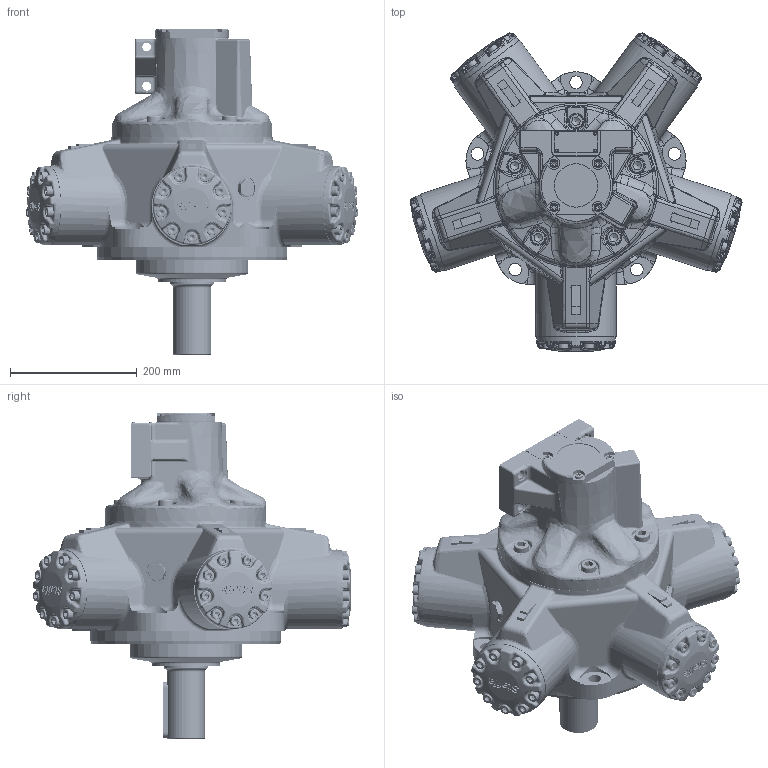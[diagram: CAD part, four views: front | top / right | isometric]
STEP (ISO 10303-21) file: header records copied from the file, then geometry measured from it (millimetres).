
FILE_DESCRIPTION(/* description */ (''),/* implementation_level */ '2;1');
FILE_NAME(/* name */ 'HMB100_P_SM3_70.stp',/* time_stamp */ '2025-12-01T14:33:26Z',/* author */ ('ccallanga'),/* organization */ (''),/* preprocessor_version */ 'ST-DEVELOPER v20',/* originating_system */ 'Autodesk Inventor 2024',/* authorisation */ '');
FILE_SCHEMA (('AUTOMOTIVE_DESIGN { 1 0 10303 214 3 1 1 }'));
Length unit declared in the file: millimetre
Products named in the file (1): HMB100 Web Assembly_Simplify_1
Bounding box: 524.48 x 502.42 x 516.43 mm (x, y, z)
Volume: 26118734.8 mm3; surface area: 823282.1 mm2
Topology: 1 solids, 1 shells, 5215 faces, 12510 edges, 7297 vertices
Faces by surface type: bspline 1879, plane 1384, cylinder 1099, torus 543, sphere 185, cone 125
Full cylindrical faces by diameter (mm): 5 x4, 8.376 x2, 9.4 x1, 11.328 x1, 11.913 x4, 12 x1, 12.7 x4, 14 x4, 16 x55, 16.5 x45, 16.51 x1, 17 x10, 20 x9, 23.825 x5, 25.4 x5, 26.92 x2, 32 x2, 38.1 x3, 60.002 x1, 68.58 x1, 69.825 x1, 73.914 x1, 88.901 x1, 107.95 x1, 177.8 x1, 254 x1, 301.535 x1
Entity records: 217112 total; most frequent: CARTESIAN_POINT 104593, ORIENTED_EDGE 24564, DIRECTION 18628, EDGE_CURVE 12282, AXIS2_PLACEMENT_3D 7310, VERTEX_POINT 7297, EDGE_LOOP 5473, STYLED_ITEM 5216
